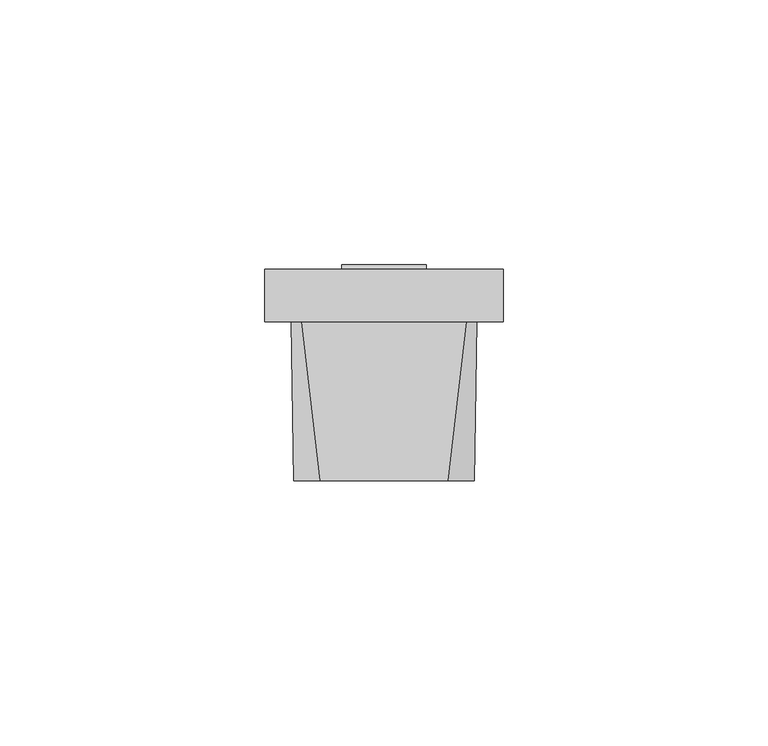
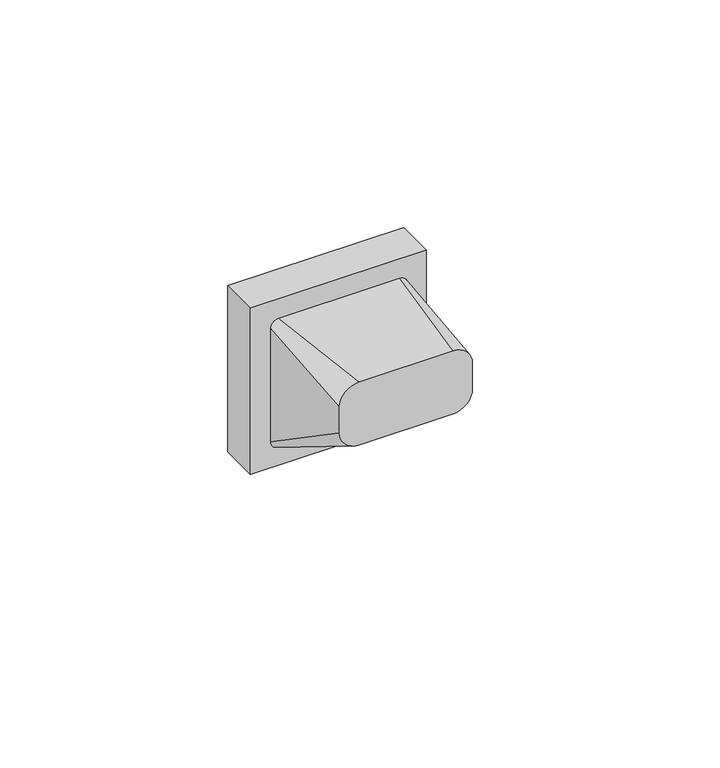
"""IFC4 building model written with IfcOpenShell, lengths in millimetres: proxy geometry, IEK_Skandy_Механизм розетки информационной : RJ45 к5E_SK-K01B."""

from ifc_helpers import new_model, si_unit, frame, origin, place, context, project, spatial, polyline, circle_curve, outline, extrude, faceted_brep, source, transform, mapped, element, save
from ifc_brep_helpers import plane_surface, spline_surface, advanced_brep


def electrical_fixtures_8f9d2783(model_context):
    return source(origin(), model_context, "Body", "SolidModel", [
        faceted_brep([(-22.5, 10.0, 22.5), (22.5, 10.0, 22.5), (22.5, 10.0, -22.5), (-22.5, 10.0, -22.5), (10.0, 10.0, -10.479217), (10.0, 10.0, 10.625), (7.9601761, 10.0, 10.625), (-7.9601761, 10.0, 10.625), (-10.0, 10.0, 10.625), (-10.0, 10.0, -10.479217), (-22.5, 0.0, 22.5), (-22.5, 0.0, -22.5), (22.5, 0.0, -22.5), (22.5, 0.0, 22.5), (10.0, 4.3684205, -4.8476375), (-10.0, 4.3684205, -4.8476375), (-7.9601761, 5.1767352, -2.626811), (7.9601761, 5.1767352, -2.626811), (7.9601761, 4.2370426, -2.2847909), (-7.9601761, 4.2370426, -2.2847909), (-7.9601761, 9.0603074, 10.9670201), (7.9601761, 9.0603074, 10.9670201)], [[[0, 1, 2, 3], [4, 5, 6, 7, 8, 9]], [[10, 11, 12, 13]], [[0, 3, 11, 10]], [[3, 2, 12, 11]], [[2, 1, 13, 12]], [[1, 0, 10, 13]], [[14, 5, 4]], [[15, 9, 8]], [[14, 4, 9, 15]], [[5, 14, 15, 8, 7, 16, 17, 6]], [[18, 19, 20, 21]], [[18, 21, 6, 17]], [[21, 20, 7, 6]], [[20, 19, 16, 7]], [[19, 18, 17, 16]]]),
        extrude(outline(polyline([(0.0, -2.0472767), (0.0, 0.0), (15.9203522, 0.0), (15.9203522, -2.0472767), (0.0, -2.0472767)])), frame((-7.9601761, 10.4018122, 8.6669379), z_axis=(0.0, 0.3420201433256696, 0.9396926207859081), x_axis=(1.0, 0.0, 0.0)), (0.0, 0.0, 1.0), 1.1350324),
        advanced_brep(
        [(-12.0, -30.0, 17.0), (-17.0, -30.0, 12.0), (-17.0, -30.0, 5.0), (-12.0, -30.0, 0.0), (12.0, -30.0, 0.0), (17.0, -30.0, 5.0), (17.0, -30.0, 12.0), (12.0, -30.0, 17.0), (-15.5, 0.0, 17.5), (15.5, 0.0, 17.5), (17.5, 0.0, 15.5), (17.5, 0.0, -15.5), (15.5, 0.0, -17.5), (-15.5, 0.0, -17.5), (-17.5, 0.0, -15.5), (-17.5, 0.0, 15.5)],
        [
            (0, 1, circle_curve(frame((-12.0, -30.0, 12.0), z_axis=(0.0, -1.0, 0.0), x_axis=(1.0, 0.0, 0.0)), 5.0)),
            (1, 2),
            (2, 3, circle_curve(frame((-12.0, -30.0, 5.0), z_axis=(0.0, -1.0, 0.0), x_axis=(1.0, 0.0, 0.0)), 5.0)),
            (3, 4),
            (4, 5, circle_curve(frame((12.0, -30.0, 5.0), z_axis=(0.0, -1.0, 0.0), x_axis=(1.0, 0.0, 0.0)), 5.0)),
            (5, 6),
            (6, 7, circle_curve(frame((12.0, -30.0, 12.0), z_axis=(0.0, -1.0, 0.0), x_axis=(1.0, 0.0, 0.0)), 5.0)),
            (7, 0),
            (8, 9),
            (9, 10, circle_curve(frame((15.5, 0.0, 15.5), z_axis=(0.0, 1.0, 0.0), x_axis=(1.0, 0.0, 0.0)), 2.0)),
            (10, 11),
            (11, 12, circle_curve(frame((15.5, 0.0, -15.5), z_axis=(0.0, 1.0, 0.0), x_axis=(1.0, 0.0, 0.0)), 2.0)),
            (12, 13),
            (13, 14, circle_curve(frame((-15.5, 0.0, -15.5), z_axis=(0.0, 1.0, 0.0), x_axis=(1.0, 0.0, 0.0)), 2.0)),
            (14, 15),
            (15, 8, circle_curve(frame((-15.5, 0.0, 15.5), z_axis=(0.0, 1.0, 0.0), x_axis=(1.0, 0.0, 0.0)), 2.0)),
            (8, 0),
            (7, 9),
            (6, 10),
            (5, 11),
            (4, 12),
            (3, 13),
            (2, 14),
            (1, 15),
        ],
        [
            plane_surface(frame((0.0, -30.0, 8.5), z_axis=(0.0, -1.0, 0.0), x_axis=(-1.0, 0.0, 0.0))),
            plane_surface(frame((0.0, 0.0, 0.0), z_axis=(0.0, 1.0, 0.0), x_axis=(-1.0, 0.0, 0.0))),
            plane_surface(frame((0.0, 0.0, 17.5), z_axis=(0.0, -0.01666435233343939, 0.9998611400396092), x_axis=(-1.0, 0.0, 0.0))),
            spline_surface(2, 1, [[(17.5, 0.0, 15.5), (17.0, -30.0, 12.0)], [(17.5, 0.0, 17.5), (17.0, -30.0, 17.0)], [(15.5, 0.0, 17.5), (12.0, -30.0, 17.0)]], [3, 3], [2, 2], [0.0, 1.0], [0.0, 1.0], weights=[[1.0, 1.0], [0.7071067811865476, 0.7071067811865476], [1.0, 1.0]]),
            plane_surface(frame((17.5, 0.0, 0.0), z_axis=(0.9998611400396, -0.016664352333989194, 0.0), x_axis=(0.0, 0.0, 1.0))),
            spline_surface(2, 1, [[(15.5, 0.0, -17.5), (12.0, -30.0, 0.0)], [(17.5, 0.0, -17.5), (17.0, -30.0, 0.0)], [(17.5, 0.0, -15.5), (17.0, -30.0, 5.0)]], [3, 3], [2, 2], [0.0, 1.0], [0.0, 1.0], weights=[[1.0, 1.0], [0.7071067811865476, 0.7071067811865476], [1.0, 1.0]]),
            plane_surface(frame((0.0, 0.0, -17.5), z_axis=(0.0, -0.5038710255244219, -0.8637789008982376), x_axis=(1.0, 0.0, 0.0))),
            spline_surface(2, 1, [[(-17.5, 0.0, -15.5), (-17.0, -30.0, 5.0)], [(-17.5, 0.0, -17.5), (-17.0, -30.0, 0.0)], [(-15.5, 0.0, -17.5), (-12.0, -30.0, 0.0)]], [3, 3], [2, 2], [0.0, 1.0], [0.0, 1.0], weights=[[1.0, 1.0], [0.7071067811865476, 0.7071067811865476], [1.0, 1.0]]),
            plane_surface(frame((-17.5, 0.0, 0.0), z_axis=(-0.9998611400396, -0.016664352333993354, 0.0), x_axis=(0.0, 0.0, -1.0))),
            spline_surface(2, 1, [[(-15.5, 0.0, 17.5), (-12.0, -30.0, 17.0)], [(-17.5, 0.0, 17.5), (-17.0, -30.0, 17.0)], [(-17.5, 0.0, 15.5), (-17.0, -30.0, 12.0)]], [3, 3], [2, 2], [0.0, 1.0], [0.0, 1.0], weights=[[1.0, 1.0], [0.7071067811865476, 0.7071067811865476], [1.0, 1.0]]),
        ],
        [
            (0, [[1, 2, 3, 4, 5, 6, 7, 8]]),
            (1, [[9, 10, 11, 12, 13, 14, 15, 16]]),
            (2, [[-9, 17, -8, 18]]),
            (3, [[-10, -18, -7, 19]]),
            (4, [[-11, -19, -6, 20]]),
            (5, [[-12, -20, -5, 21]]),
            (6, [[-13, -21, -4, 22]]),
            (7, [[-14, -22, -3, 23]]),
            (8, [[-15, -23, -2, 24]]),
            (9, [[-16, -24, -1, -17]]),
        ],
    ),
    ])


if __name__ == "__main__":
    model = new_model("IFC4")
    model_context = context("Model", 3, world=origin())
    ifc_project = project(units=[si_unit("LENGTHUNIT", "METRE", prefix="MILLI")], contexts=[model_context])
    site = spatial("IfcSite", under=ifc_project)
    building = spatial("IfcBuilding", under=site)
    placement = place(None, origin())
    electrical_fixtures_shape = electrical_fixtures_8f9d2783(model_context)
    element("IfcBuildingElementProxy", 1, Name="IEK_Skandy_Механизм розетки информационной : RJ45 к5E_SK-K01B", ObjectType="IEK_Skandy_Механизм розетки информационной : RJ45 к5E_SK-K01B", at=placement, inside=building, context=model_context, shape_type="MappedRepresentation", body=[
        mapped(electrical_fixtures_shape, transform((0.0, 0.0, 0.0), x_axis=(1.0, 0.0, 0.0), y_axis=(0.0, 1.0, 0.0), z_axis=(0.0, 0.0, 1.0))),
    ])
    save(model, "model.ifc")
